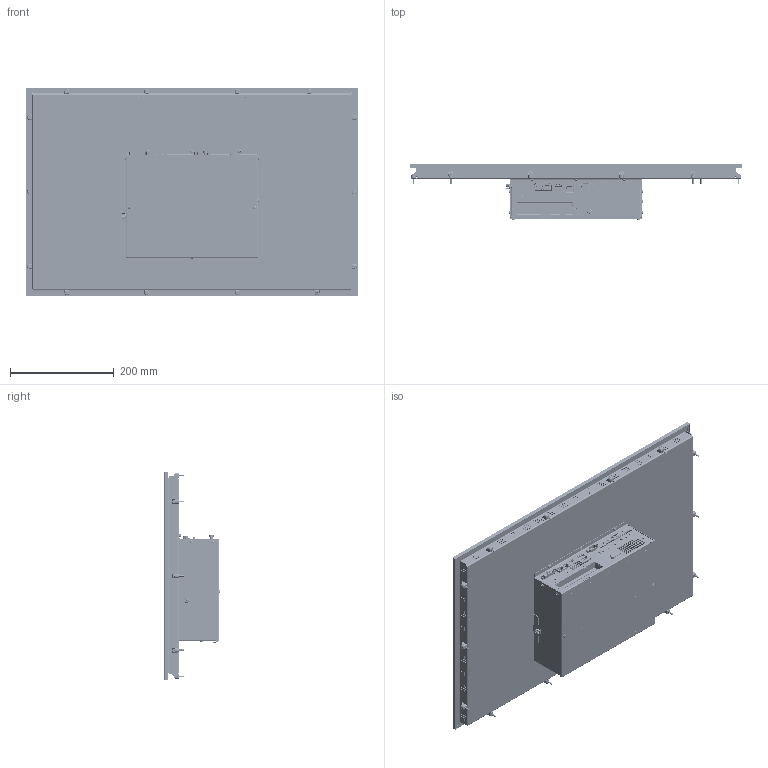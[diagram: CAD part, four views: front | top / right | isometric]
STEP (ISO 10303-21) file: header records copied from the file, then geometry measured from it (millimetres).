
FILE_DESCRIPTION((''),'2;1');
FILE_NAME('C6E22-Panel_240W_CAP_S1','2017-03-07T',('manpal'),(''),'PRO/ENGINEER BY PARAMETRIC TECHNOLOGY CORPORATION, 2013410','PRO/ENGINEER BY PARAMETRIC TECHNOLOGY CORPORATION, 2013410','');
FILE_SCHEMA(('AUTOMOTIVE_DESIGN { 1 0 10303 214 1 1 1 1 }'));
Products named in the file (2): C6E22-Panel_240W_CAP_S1_
Assembly tree (1 placements, depth 2):
  C6E22-Panel_240W_CAP_S1_
    C6E22-Panel_240W_CAP_S1_
Bounding box: 639.5 x 108.39 x 402 mm (x, y, z)
Surface area: 1421232.9 mm2 (no closed solid volume)
Topology: 0 solids, 389 shells, 6951 faces, 28797 edges, 21988 vertices
Faces by surface type: plane 5707, cylinder 752, cone 248, bspline 172, sphere 42, torus 28, extrusion 2
Entity records: 324838 total; most frequent: CARTESIAN_POINT 74715, DIRECTION 44104, ORIENTED_EDGE 42091, EDGE_CURVE 28753, VECTOR 24220, LINE 24218, VERTEX_POINT 21988, AXIS2_PLACEMENT_3D 9942
